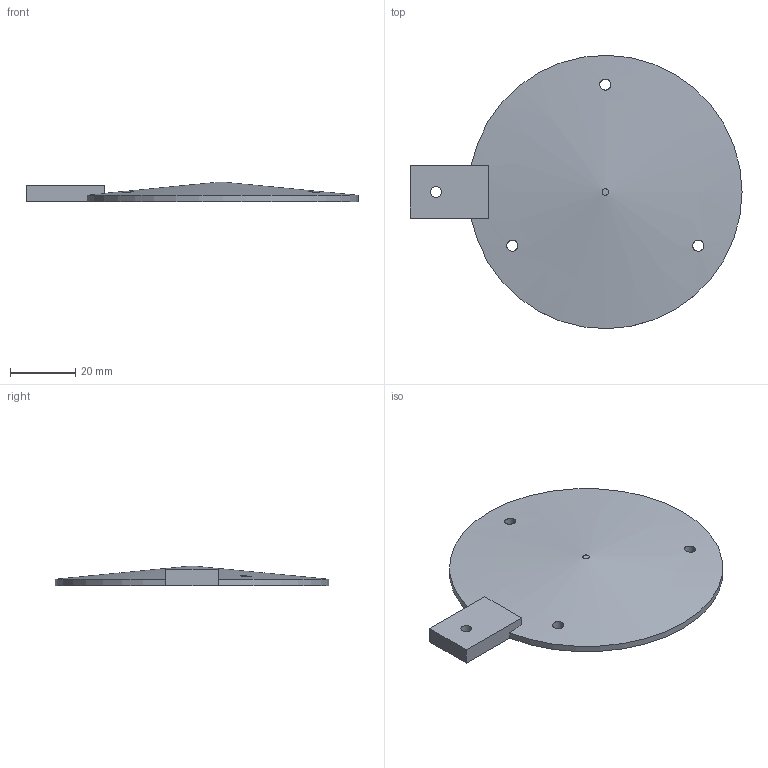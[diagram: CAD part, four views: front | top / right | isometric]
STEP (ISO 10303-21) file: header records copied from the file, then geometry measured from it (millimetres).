
FILE_DESCRIPTION(('Open CASCADE Model'),'2;1');
FILE_NAME('Open CASCADE Shape Model','2026-10-18T06:41:05',('Author'),( 'Open CASCADE'),'Open CASCADE STEP processor 7.9','Open CASCADE 7.9' ,'Unknown');
FILE_SCHEMA(('AUTOMOTIVE_DESIGN { 1 0 10303 214 1 1 1 1 }'));
Length unit declared in the file: millimetre
Products named in the file (1): Open CASCADE STEP translator 7.9 6
Bounding box: 102 x 84 x 6 mm (x, y, z)
Volume: 20239.5 mm3; surface area: 12597.5 mm2
Topology: 1 solids, 1 shells, 13 faces, 33 edges, 22 vertices
Faces by surface type: plane 7, cylinder 5, cone 1
Full cylindrical faces by diameter (mm): 3.4 x4
Entity records: 2074 total; most frequent: CARTESIAN_POINT 1419, DIRECTION 111, ORIENTED_EDGE 66, PCURVE 66, DEFINITIONAL_REPRESENTATION 66, LINE 57, VECTOR 57, EDGE_CURVE 33
